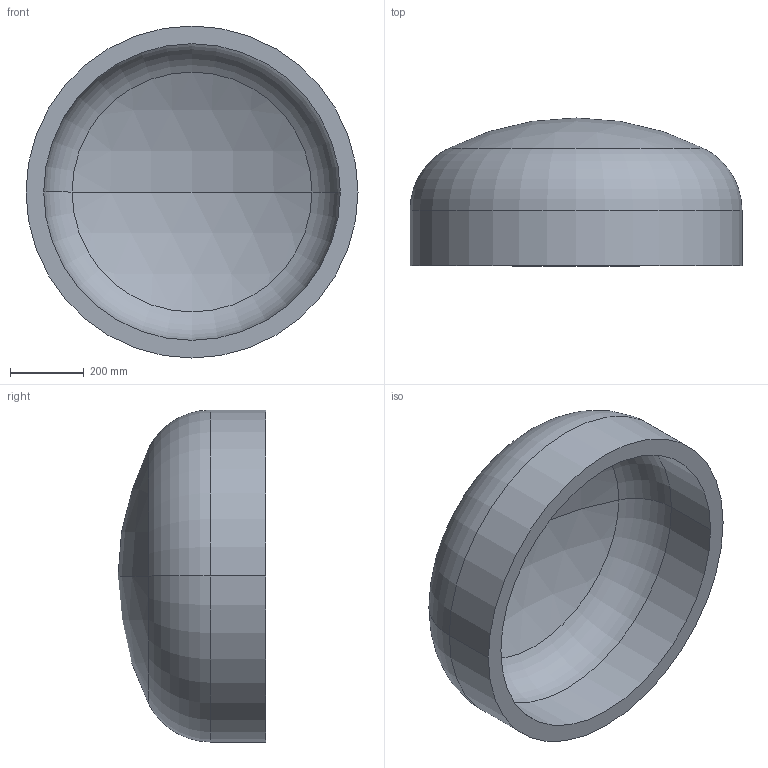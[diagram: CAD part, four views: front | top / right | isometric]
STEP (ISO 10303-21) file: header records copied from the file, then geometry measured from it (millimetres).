
FILE_DESCRIPTION (( 'STEP AP203' ), '1' );
FILE_NAME ('DIN 28013 Korbbogenform_-_Boden DIN 28013 - 900 x 150 - I - s=48.step', '2016-07-01T08:32:47', ( '' ), ( '' ), 'SwSTEP 2.0', 'SolidWorks 2013', '' );
FILE_SCHEMA (( 'CONFIG_CONTROL_DESIGN' ));
Length unit declared in the file: millimetre
Products named in the file (1): DIN 28013 Korbbogenform_-_Boden DIN 28013 - 900 x 150 - I - s=48
Bounding box: 900 x 400.55 x 900 mm (x, y, z)
Volume: 58851946.3 mm3; surface area: 2585468 mm2
Topology: 1 solids, 1 shells, 13 faces, 24 edges, 14 vertices
Faces by surface type: torus 4, cylinder 4, sphere 4, plane 1
Entity records: 407 total; most frequent: DIRECTION 72, CARTESIAN_POINT 52, ORIENTED_EDGE 48, AXIS2_PLACEMENT_3D 34, EDGE_CURVE 24, CIRCLE 20, EDGE_LOOP 14, VERTEX_POINT 14
